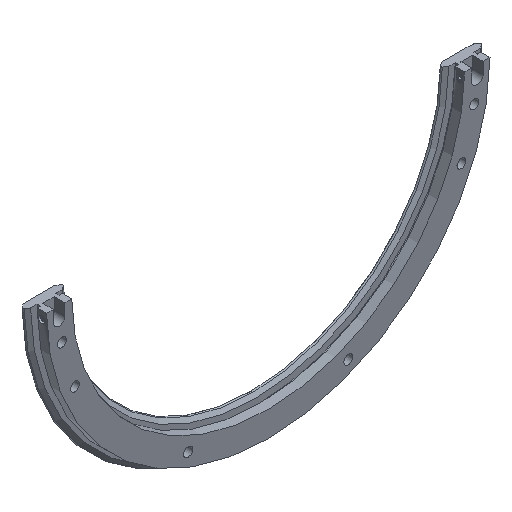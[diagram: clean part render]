
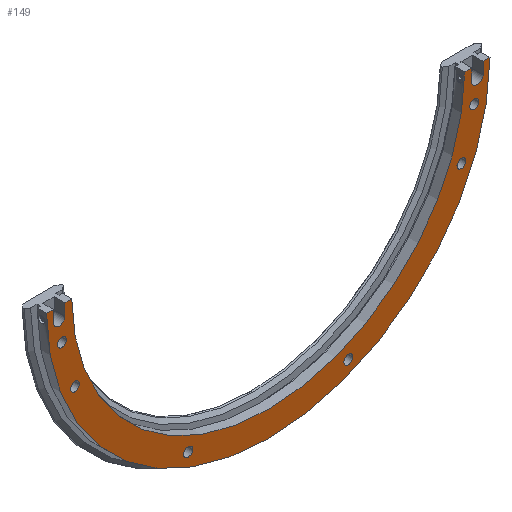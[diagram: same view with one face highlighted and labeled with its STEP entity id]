
A CAD part, isometric view. The second image highlights one B-rep face of the part: STEP entity #149.
In plain terms, the highlighted planar face has unit normal (0, -1, 0).
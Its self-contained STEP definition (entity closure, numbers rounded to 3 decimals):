
#149 = ADVANCED_FACE( '', ( #340, #341, #342, #343, #344, #345, #346 ), #347, .T. );
#340 = FACE_BOUND( '', #543, .T. );
#341 = FACE_BOUND( '', #544, .T. );
#342 = FACE_BOUND( '', #545, .T. );
#343 = FACE_BOUND( '', #546, .T. );
#344 = FACE_BOUND( '', #547, .T. );
#345 = FACE_BOUND( '', #548, .T. );
#346 = FACE_OUTER_BOUND( '', #549, .T. );
#347 = PLANE( '', #550 );
#543 = EDGE_LOOP( '', ( #1082 ) );
#544 = EDGE_LOOP( '', ( #1083 ) );
#545 = EDGE_LOOP( '', ( #1084 ) );
#546 = EDGE_LOOP( '', ( #1085 ) );
#547 = EDGE_LOOP( '', ( #1086 ) );
#548 = EDGE_LOOP( '', ( #1087 ) );
#549 = EDGE_LOOP( '', ( #1088, #1089, #1090, #1091, #1092, #1093, #1094, #1095, #1096, #1097, #1098, #1099 ) );
#550 = AXIS2_PLACEMENT_3D( '', #1100, #1101, #1102 );
#1082 = ORIENTED_EDGE( '', *, *, #1303, .F. );
#1083 = ORIENTED_EDGE( '', *, *, #1300, .F. );
#1084 = ORIENTED_EDGE( '', *, *, #1285, .F. );
#1085 = ORIENTED_EDGE( '', *, *, #1282, .F. );
#1086 = ORIENTED_EDGE( '', *, *, #1188, .F. );
#1087 = ORIENTED_EDGE( '', *, *, #1192, .F. );
#1088 = ORIENTED_EDGE( '', *, *, #1310, .T. );
#1089 = ORIENTED_EDGE( '', *, *, #1304, .T. );
#1090 = ORIENTED_EDGE( '', *, *, #1155, .T. );
#1091 = ORIENTED_EDGE( '', *, *, #1322, .F. );
#1092 = ORIENTED_EDGE( '', *, *, #1323, .T. );
#1093 = ORIENTED_EDGE( '', *, *, #1182, .T. );
#1094 = ORIENTED_EDGE( '', *, *, #1187, .T. );
#1095 = ORIENTED_EDGE( '', *, *, #1184, .T. );
#1096 = ORIENTED_EDGE( '', *, *, #1324, .T. );
#1097 = ORIENTED_EDGE( '', *, *, #1213, .T. );
#1098 = ORIENTED_EDGE( '', *, *, #1159, .T. );
#1099 = ORIENTED_EDGE( '', *, *, #1309, .T. );
#1100 = CARTESIAN_POINT( '', ( -119.8, 0., 0. ) );
#1101 = DIRECTION( '', ( 0., -1., 0. ) );
#1102 = DIRECTION( '', ( 0., 0., -1. ) );
#1155 = EDGE_CURVE( '', #1332, #1333, #1334, .T. );
#1159 = EDGE_CURVE( '', #1341, #1339, #1342, .T. );
#1182 = EDGE_CURVE( '', #1386, #1384, #1387, .T. );
#1184 = EDGE_CURVE( '', #1389, #1390, #1391, .T. );
#1187 = EDGE_CURVE( '', #1384, #1389, #1394, .T. );
#1188 = EDGE_CURVE( '', #1395, #1395, #1396, .T. );
#1192 = EDGE_CURVE( '', #1403, #1403, #1404, .T. );
#1213 = EDGE_CURVE( '', #1440, #1341, #1441, .T. );
#1282 = EDGE_CURVE( '', #1559, #1559, #1560, .T. );
#1285 = EDGE_CURVE( '', #1565, #1565, #1566, .T. );
#1300 = EDGE_CURVE( '', #1589, #1589, #1590, .T. );
#1303 = EDGE_CURVE( '', #1595, #1595, #1596, .T. );
#1304 = EDGE_CURVE( '', #1597, #1332, #1598, .T. );
#1309 = EDGE_CURVE( '', #1339, #1604, #1606, .T. );
#1310 = EDGE_CURVE( '', #1604, #1597, #1607, .T. );
#1322 = EDGE_CURVE( '', #1623, #1333, #1625, .T. );
#1323 = EDGE_CURVE( '', #1623, #1386, #1626, .T. );
#1324 = EDGE_CURVE( '', #1390, #1440, #1627, .T. );
#1332 = VERTEX_POINT( '', #1636 );
#1333 = VERTEX_POINT( '', #1637 );
#1334 = LINE( '', #1638, #1639 );
#1339 = VERTEX_POINT( '', #1646 );
#1341 = VERTEX_POINT( '', #1649 );
#1342 = LINE( '', #1650, #1651 );
#1384 = VERTEX_POINT( '', #1790 );
#1386 = VERTEX_POINT( '', #1793 );
#1387 = LINE( '', #1794, #1795 );
#1389 = VERTEX_POINT( '', #1798 );
#1390 = VERTEX_POINT( '', #1799 );
#1391 = LINE( '', #1800, #1801 );
#1394 = CIRCLE( '', #1806, 3.5 );
#1395 = VERTEX_POINT( '', #1807 );
#1396 = CIRCLE( '', #1808, 2.75 );
#1403 = VERTEX_POINT( '', #1815 );
#1404 = CIRCLE( '', #1816, 2.75 );
#1440 = VERTEX_POINT( '', #1916 );
#1441 = CIRCLE( '', #1917, 135.2 );
#1559 = VERTEX_POINT( '', #2210 );
#1560 = CIRCLE( '', #2211, 2.75 );
#1565 = VERTEX_POINT( '', #2216 );
#1566 = CIRCLE( '', #2217, 2.75 );
#1589 = VERTEX_POINT( '', #2252 );
#1590 = CIRCLE( '', #2253, 2.75 );
#1595 = VERTEX_POINT( '', #2258 );
#1596 = CIRCLE( '', #2259, 2.75 );
#1597 = VERTEX_POINT( '', #2260 );
#1598 = LINE( '', #2261, #2262 );
#1604 = VERTEX_POINT( '', #2271 );
#1606 = LINE( '', #2274, #2275 );
#1607 = CIRCLE( '', #2276, 3.5 );
#1623 = VERTEX_POINT( '', #2298 );
#1625 = CIRCLE( '', #2301, 119.8 );
#1626 = LINE( '', #2302, #2303 );
#1627 = LINE( '', #2304, #2305 );
#1636 = CARTESIAN_POINT( '', ( 124., 0., -1.5 ) );
#1637 = CARTESIAN_POINT( '', ( 119.791, 0., -1.5 ) );
#1638 = CARTESIAN_POINT( '', ( 140.37, 0., -1.5 ) );
#1639 = VECTOR( '', #2338, 1000. );
#1646 = CARTESIAN_POINT( '', ( 131., 0., -1.5 ) );
#1649 = CARTESIAN_POINT( '', ( 135.192, 0., -1.5 ) );
#1650 = CARTESIAN_POINT( '', ( 140.37, 0., -1.5 ) );
#1651 = VECTOR( '', #2342, 1000. );
#1790 = CARTESIAN_POINT( '', ( -124., 0., -8.5 ) );
#1793 = CARTESIAN_POINT( '', ( -124., 0., -1.5 ) );
#1794 = CARTESIAN_POINT( '', ( -124., 0., 0. ) );
#1795 = VECTOR( '', #2362, 1000. );
#1798 = CARTESIAN_POINT( '', ( -131., 0., -8.5 ) );
#1799 = CARTESIAN_POINT( '', ( -131., 0., -1.5 ) );
#1800 = CARTESIAN_POINT( '', ( -131., 0., -8.5 ) );
#1801 = VECTOR( '', #2364, 1000. );
#1806 = AXIS2_PLACEMENT_3D( '', #2367, #2368, #2369 );
#1807 = CARTESIAN_POINT( '', ( -117.795, 0., -51.542 ) );
#1808 = AXIS2_PLACEMENT_3D( '', #2370, #2371, #2372 );
#1815 = CARTESIAN_POINT( '', ( -48.792, 0., -120.545 ) );
#1816 = AXIS2_PLACEMENT_3D( '', #2382, #2383, #2384 );
#1916 = CARTESIAN_POINT( '', ( -135.192, 0., -1.5 ) );
#1917 = AXIS2_PLACEMENT_3D( '', #2431, #2432, #2433 );
#2210 = CARTESIAN_POINT( '', ( 48.792, 0., -120.545 ) );
#2211 = AXIS2_PLACEMENT_3D( '', #2510, #2511, #2512 );
#2216 = CARTESIAN_POINT( '', ( 117.795, 0., -51.542 ) );
#2217 = AXIS2_PLACEMENT_3D( '', #2519, #2520, #2521 );
#2252 = CARTESIAN_POINT( '', ( -125.677, 0., -24.232 ) );
#2253 = AXIS2_PLACEMENT_3D( '', #2540, #2541, #2542 );
#2258 = CARTESIAN_POINT( '', ( 125.677, 0., -24.232 ) );
#2259 = AXIS2_PLACEMENT_3D( '', #2549, #2550, #2551 );
#2260 = CARTESIAN_POINT( '', ( 124., 0., -8.5 ) );
#2261 = CARTESIAN_POINT( '', ( 124., 0., -8.5 ) );
#2262 = VECTOR( '', #2552, 1000. );
#2271 = CARTESIAN_POINT( '', ( 131., 0., -8.5 ) );
#2274 = CARTESIAN_POINT( '', ( 131., 0., 0. ) );
#2275 = VECTOR( '', #2557, 1000. );
#2276 = AXIS2_PLACEMENT_3D( '', #2558, #2559, #2560 );
#2298 = CARTESIAN_POINT( '', ( -119.791, 0., -1.5 ) );
#2301 = AXIS2_PLACEMENT_3D( '', #2583, #2584, #2585 );
#2302 = CARTESIAN_POINT( '', ( 140.37, 0., -1.5 ) );
#2303 = VECTOR( '', #2586, 1000. );
#2304 = CARTESIAN_POINT( '', ( 140.37, 0., -1.5 ) );
#2305 = VECTOR( '', #2587, 1000. );
#2338 = DIRECTION( '', ( -1., 0., 0. ) );
#2342 = DIRECTION( '', ( -1., 0., 0. ) );
#2362 = DIRECTION( '', ( 0., 0., -1. ) );
#2364 = DIRECTION( '', ( 0., 0., 1. ) );
#2367 = CARTESIAN_POINT( '', ( -127.5, 0., -8.5 ) );
#2368 = DIRECTION( '', ( 0., 1., 0. ) );
#2369 = DIRECTION( '', ( 1., 0., 0. ) );
#2370 = CARTESIAN_POINT( '', ( -117.795, 0., -48.792 ) );
#2371 = DIRECTION( '', ( 0., -1., 0. ) );
#2372 = DIRECTION( '', ( 0., 0., -1. ) );
#2382 = CARTESIAN_POINT( '', ( -48.792, 0., -117.795 ) );
#2383 = DIRECTION( '', ( 0., -1., 0. ) );
#2384 = DIRECTION( '', ( 0., 0., -1. ) );
#2431 = CARTESIAN_POINT( '', ( 0., 0., 0. ) );
#2432 = DIRECTION( '', ( 0., -1., 0. ) );
#2433 = DIRECTION( '', ( 0., 0., -1. ) );
#2510 = CARTESIAN_POINT( '', ( 48.792, 0., -117.795 ) );
#2511 = DIRECTION( '', ( 0., -1., 0. ) );
#2512 = DIRECTION( '', ( 0., 0., -1. ) );
#2519 = CARTESIAN_POINT( '', ( 117.795, 0., -48.792 ) );
#2520 = DIRECTION( '', ( 0., -1., 0. ) );
#2521 = DIRECTION( '', ( 0., 0., -1. ) );
#2540 = CARTESIAN_POINT( '', ( -125.677, 0., -21.482 ) );
#2541 = DIRECTION( '', ( 0., -1., 0. ) );
#2542 = DIRECTION( '', ( 0., 0., -1. ) );
#2549 = CARTESIAN_POINT( '', ( 125.677, 0., -21.482 ) );
#2550 = DIRECTION( '', ( 0., -1., 0. ) );
#2551 = DIRECTION( '', ( 0., 0., -1. ) );
#2552 = DIRECTION( '', ( 0., 0., 1. ) );
#2557 = DIRECTION( '', ( 0., 0., -1. ) );
#2558 = CARTESIAN_POINT( '', ( 127.5, 0., -8.5 ) );
#2559 = DIRECTION( '', ( 0., 1., 0. ) );
#2560 = DIRECTION( '', ( 1., 0., 0. ) );
#2583 = CARTESIAN_POINT( '', ( 0., 0., 0. ) );
#2584 = DIRECTION( '', ( 0., -1., 0. ) );
#2585 = DIRECTION( '', ( 0., 0., -1. ) );
#2586 = DIRECTION( '', ( -1., 0., 0. ) );
#2587 = DIRECTION( '', ( -1., 0., 0. ) );
